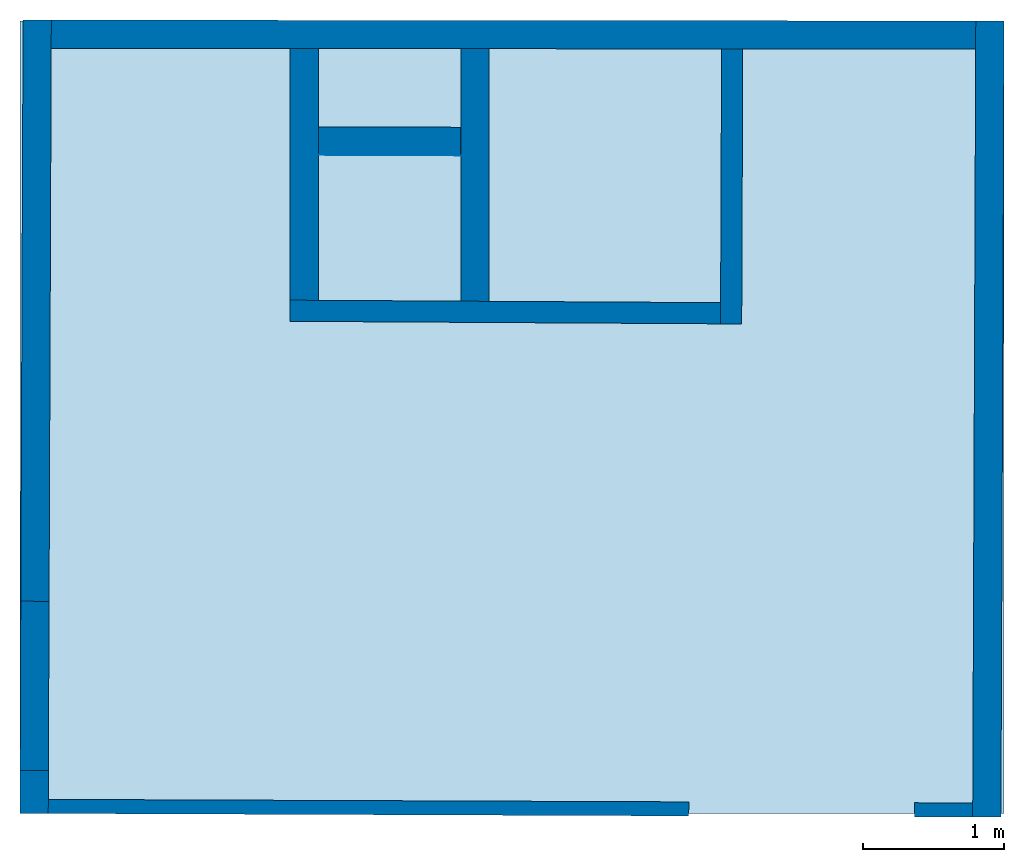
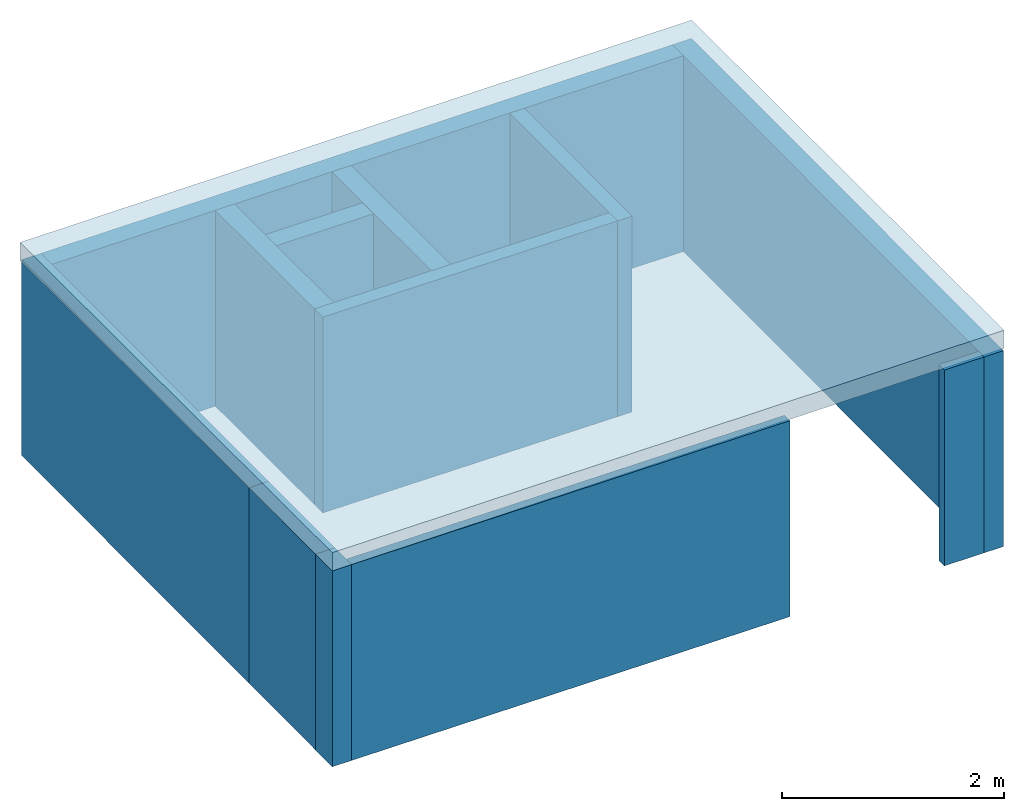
# One storey: 13 walls, 1 slab.
"""IFC2X3 building model written with IfcOpenShell, lengths in millimetres."""

from ifc_helpers import new_model, entity, si_unit, converted_unit, frame, frame_2d, origin, origin_with_axes, place, context, subcontext, project, spatial, polyline, rectangle, outline, extrude, material, layer, layer_set, layer_usage, element, save


model = new_model("IFC2X3")

# Units and contexts
model_context = context("Model", 3, precision=1e-05, world=origin())
body_context = subcontext(model_context, "Body", "Model", "MODEL_VIEW")
ifc_project = project(units=[si_unit("LENGTHUNIT", "METRE", prefix="MILLI"), converted_unit("PLANEANGLEUNIT", "DEGREE", entity("IfcPlaneAngleMeasure", 0.0174532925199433), si_unit("PLANEANGLEUNIT", "RADIAN"), dimensions=[0, 0, 0, 0, 0, 0, 0]), si_unit("AREAUNIT", "SQUARE_METRE"), si_unit("VOLUMEUNIT", "CUBIC_METRE")], contexts=[model_context])

# Building, storey
building_placement = place(None, origin())
building = spatial("IfcBuilding", under=ifc_project, at=building_placement, Name="Bâtiment", CompositionType="ELEMENT")
storey_placement = place(building_placement, frame((0.0, 0.0, 24250.0), z_axis=(0.0, 0.0, 1.0), x_axis=(1.0, 0.0, 0.0)))
storey = spatial("IfcBuildingStorey", under=building, at=storey_placement, Name="7. Etage supérieur", CompositionType="ELEMENT", Elevation=24250.0)

# Slab
ifc_material_1 = material(Name="<Unnamed Material>")
ifc_layer_1 = layer(ifc_material_1, 200.0)
ifc_layer_set_1 = layer_set([ifc_layer_1])
ifc_layer_usage_1 = layer_usage(ifc_layer_set_1, "AXIS3", "POSITIVE", 0.0)
slab_placement = place(storey_placement, frame((11820.96128719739, -12915.65015882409, 1950.0), z_axis=(0.0, 0.0, 1.0), x_axis=(1.0, 0.0, 0.0)))
element("IfcSlab", 1, at=slab_placement, inside=storey, material=ifc_layer_usage_1, Name="<Unnamed Element>", PredefinedType="FLOOR", context=body_context, shape_type="SweptSolid", body=[
    extrude(rectangle(XDim=6971.978793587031, YDim=5614.552198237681, at=frame_2d((-3485.989396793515, -2807.276099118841), x_axis=(-1.0, 0.0))), origin_with_axes(), (0.0, 0.0, 1.0), 200.0),
])

# Walls
ifc_material_2 = material(Name="<Unnamed Material>")
ifc_layer_2 = layer(ifc_material_2, 0.1094396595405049)
ifc_layer_set_2 = layer_set([ifc_layer_2])
ifc_layer_usage_2 = layer_usage(ifc_layer_set_2, "AXIS2", "POSITIVE", -200.0)
wall_1_placement = place(storey_placement, frame((6967.893524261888, -13865.21003219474, -200.0), z_axis=(0.0, 0.0, 1.0), x_axis=(0.9999924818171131, -0.003877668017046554, 0.0)))
element("IfcWallStandardCase", 2, at=wall_1_placement, inside=storey, material=ifc_layer_usage_2, Name="<Unnamed Element>", context=body_context, shape_type="SweptSolid", body=[
    extrude(outline(polyline([(0.0, 0.0), (999.0689072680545, 0.0), (999.0689072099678, 0.1094396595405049), (0.0, 0.0)])), origin_with_axes(), (0.0, 0.0, 1.0), 2150.0),
])
ifc_material_3 = material(Name="<Unnamed Material>")
ifc_layer_3 = layer(ifc_material_3, 149.9999999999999)
ifc_layer_set_3 = layer_set([ifc_layer_3])
ifc_layer_usage_3 = layer_usage(ifc_layer_set_3, "AXIS2", "POSITIVE", 0.0)
wall_2_placement = place(storey_placement, frame((9819.893887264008, -13113.6869295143, -200.0), z_axis=(0.0, 0.0, 1.0), x_axis=(-0.003877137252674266, -0.9999924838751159, 0.0)))
element("IfcWallStandardCase", 3, at=wall_2_placement, inside=storey, material=ifc_layer_usage_3, Name="<Unnamed Element>", context=body_context, shape_type="SweptSolid", body=[
    extrude(outline(polyline([(0.0, 0.0), (1949.020406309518, 8.881784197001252e-16), (1949.020406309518, 149.9999999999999), (-0.4344024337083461, 150.0000000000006), (0.0, 0.0)])), origin_with_axes(), (0.0, 0.0, 1.0), 2150.0),
])
ifc_material_4 = material(Name="<Unnamed Material>")
ifc_layer_4 = layer(ifc_material_4, 150.0000000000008)
ifc_layer_set_4 = layer_set([ifc_layer_4])
ifc_layer_usage_4 = layer_usage(ifc_layer_set_4, "AXIS2", "POSITIVE", 0.0)
wall_3_placement = place(storey_placement, frame((9812.92326485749, -14911.55209656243, -200.0), z_axis=(0.0, 0.0, 1.0), x_axis=(-0.9999831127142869, 0.005811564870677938, 0.0)))
element("IfcWallStandardCase", 4, at=wall_3_placement, inside=storey, material=ifc_layer_usage_4, Name="<Unnamed Element>", context=body_context, shape_type="SweptSolid", body=[
    extrude(outline(polyline([(0.0, 0.0), (3049.945626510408, 0.0), (3049.073877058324, 150.0000000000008), (-0.2901679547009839, 149.9999999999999), (0.0, 0.0)])), origin_with_axes(), (0.0, 0.0, 1.0), 2150.0),
])
ifc_material_5 = material(Name="<Unnamed Material>")
ifc_layer_5 = layer(ifc_material_5, 200.0000000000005)
ifc_layer_set_5 = layer_set([ifc_layer_5])
ifc_layer_usage_5 = layer_usage(ifc_layer_set_5, "AXIS2", "POSITIVE", -200.0)
wall_4_placement = place(storey_placement, frame((11620.96054477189, -12915.45393026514, -200.0), z_axis=(0.0, 0.0, 1.0), x_axis=(-0.00387713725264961, -0.9999924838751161, 0.0)))
element("IfcWallStandardCase", 5, at=wall_4_placement, inside=storey, material=ifc_layer_usage_5, Name="<Unnamed Element>", context=body_context, shape_type="SweptSolid", body=[
    extrude(outline(polyline([(0.0, 0.0), (5640.962105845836, 0.0), (5640.963670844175, 200.0000000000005), (-0.5792032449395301, 200.0000000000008), (0.0, 0.0)])), origin_with_axes(), (0.0, 0.0, 1.0), 2150.0),
])
ifc_material_6 = material(Name="<Unnamed Material>")
ifc_layer_6 = layer(ifc_material_6, 200.0000000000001)
ifc_layer_set_6 = layer_set([ifc_layer_6])
ifc_layer_usage_6 = layer_usage(ifc_layer_set_6, "AXIS2", "POSITIVE", -200.0)
wall_5_placement = place(storey_placement, frame((4870.776407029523, -12908.83106031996, -200.0), z_axis=(0.0, 0.0, 1.0), x_axis=(-0.00387713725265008, -0.9999924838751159, 0.0)))
element("IfcWallStandardCase", 6, at=wall_5_placement, inside=storey, material=ifc_layer_usage_6, Name="<Unnamed Element>", context=body_context, shape_type="SweptSolid", body=[
    extrude(outline(polyline([(0.0, 0.0), (4118.033887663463, 0.0), (4118.033887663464, 200.0000000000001), (-0.5792032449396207, 199.9999999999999), (0.0, 0.0)])), origin_with_axes(), (0.0, 0.0, 1.0), 2150.0),
])
ifc_material_7 = material(Name="<Unnamed Material>")
ifc_layer_7 = layer(ifc_material_7, 199.9999999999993)
ifc_layer_set_7 = layer_set([ifc_layer_7])
ifc_layer_usage_7 = layer_usage(ifc_layer_set_7, "AXIS2", "POSITIVE", -200.0)
wall_6_placement = place(storey_placement, frame((4850.156996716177, -18226.99598276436, -200.0), z_axis=(0.0, 0.0, 1.0), x_axis=(-0.003873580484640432, -0.999992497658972, 0.0)))
element("IfcWallStandardCase", 7, at=wall_6_placement, inside=storey, material=ifc_layer_usage_7, Name="<Unnamed Element>", context=body_context, shape_type="SweptSolid", body=[
    extrude(outline(polyline([(0.0, 0.0), (303.208649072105, 0.0), (303.2093604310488, 199.9999999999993), (-1.519118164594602e-12, 200.0000000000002), (0.0, 0.0)])), origin_with_axes(), (0.0, 0.0, 1.0), 2150.0),
])
ifc_material_8 = material(Name="<Unnamed Material>")
ifc_layer_8 = layer(ifc_material_8, 99.99999999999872)
ifc_layer_set_8 = layer_set([ifc_layer_8])
ifc_layer_usage_8 = layer_usage(ifc_layer_set_8, "AXIS2", "POSITIVE", -100.0)
wall_7_placement = place(storey_placement, frame((5048.980990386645, -18530.97778451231, -200.0), z_axis=(0.0, 0.0, 1.0), x_axis=(0.9999924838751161, -0.003877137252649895, 0.0)))
element("IfcWallStandardCase", 8, at=wall_7_placement, inside=storey, material=ifc_layer_usage_8, Name="<Unnamed Element>", context=body_context, shape_type="SweptSolid", body=[
    extrude(outline(polyline([(0.0, 0.0), (4538.195605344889, 3.552713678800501e-15), (4538.195605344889, 99.99999999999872), (-0.0003556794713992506, 100.0000000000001), (0.0, 0.0)])), origin_with_axes(), (0.0, 0.0, 1.0), 2150.0),
])
ifc_material_9 = material(Name="<Unnamed Material>")
ifc_layer_9 = layer(ifc_material_9, 100.0000000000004)
ifc_layer_set_9 = layer_set([ifc_layer_9])
ifc_layer_usage_9 = layer_usage(ifc_layer_set_9, "AXIS2", "POSITIVE", -100.0)
wall_8_placement = place(storey_placement, frame((11187.38509966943, -18554.77416882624, -200.0), z_axis=(0.0, 0.0, 1.0), x_axis=(0.9999924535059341, -0.003884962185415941, 0.0)))
element("IfcWallStandardCase", 9, at=wall_8_placement, inside=storey, material=ifc_layer_usage_9, Name="<Unnamed Element>", context=body_context, shape_type="SweptSolid", body=[
    extrude(outline(polyline([(0.0, 0.0), (411.7077677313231, -2.220446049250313e-16), (411.7069852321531, 100.0000000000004), (4.599098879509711e-13, 100.0000000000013), (0.0, 0.0)])), origin_with_axes(), (0.0, 0.0, 1.0), 2150.0),
])
ifc_material_10 = material(Name="<Unnamed Material>")
ifc_layer_10 = layer(ifc_material_10, 200.0000000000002)
ifc_layer_set_10 = layer_set([ifc_layer_10])
ifc_layer_usage_10 = layer_usage(ifc_layer_set_10, "AXIS2", "POSITIVE", 0.0)
wall_9_placement = place(storey_placement, frame((5050.155496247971, -18227.77069886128, -200.0), z_axis=(0.0, 0.0, 1.0), x_axis=(0.003877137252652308, 0.9999924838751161, 0.0)))
element("IfcWallStandardCase", 10, at=wall_9_placement, inside=storey, material=ifc_layer_usage_10, Name="<Unnamed Element>", context=body_context, shape_type="SweptSolid", body=[
    extrude(rectangle(XDim=1200.170295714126, YDim=200.0000000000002, at=frame_2d((600.085147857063, 100.0000000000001), x_axis=(1.0, 0.0))), origin_with_axes(), (0.0, 0.0, 1.0), 2150.0),
])
ifc_material_11 = material(Name="<Unnamed Material>")
ifc_layer_11 = layer(ifc_material_11, 199.9999999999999)
ifc_layer_set_11 = layer_set([ifc_layer_11])
ifc_layer_usage_11 = layer_usage(ifc_layer_set_11, "AXIS2", "POSITIVE", -200.0)
wall_10_placement = place(storey_placement, frame((11620.96054477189, -12915.45393026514, -200.0), z_axis=(0.0, 0.0, 1.0), x_axis=(-0.9999995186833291, 0.0009811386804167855, 0.0)))
element("IfcWallStandardCase", 11, at=wall_10_placement, inside=storey, material=ifc_layer_usage_11, Name="<Unnamed Element>", context=body_context, shape_type="SweptSolid", body=[
    extrude(outline(polyline([(0.0, 0.0), (6550.186548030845, 0.0), (6550.765751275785, 199.9999999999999), (0.5792032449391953, 199.9999999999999), (0.0, 0.0)])), origin_with_axes(), (0.0, 0.0, 1.0), 2150.0),
])
ifc_material_12 = material(Name="<Unnamed Material>")
ifc_layer_12 = layer(ifc_material_12, 200.0)
ifc_layer_set_12 = layer_set([ifc_layer_12])
ifc_layer_usage_12 = layer_usage(ifc_layer_set_12, "AXIS2", "POSITIVE", 0.0)
wall_11_placement = place(storey_placement, frame((6963.029143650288, -14894.9894723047, -200.0), z_axis=(0.0, 0.0, 1.0), x_axis=(0.0, 0.9999999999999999, 0.0)))
element("IfcWallStandardCase", 12, at=wall_11_placement, inside=storey, material=ifc_layer_usage_12, Name="<Unnamed Element>", context=body_context, shape_type="SweptSolid", body=[
    extrude(outline(polyline([(0.0, 0.0), (1784.105524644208, 0.0), (1784.301752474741, 200.0), (1.162332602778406, 200.0), (0.0, 0.0)])), origin_with_axes(), (0.0, 0.0, 1.0), 2150.0),
])
ifc_material_13 = material(Name="<Unnamed Material>")
ifc_layer_13 = layer(ifc_material_13, 200.0)
ifc_layer_set_13 = layer_set([ifc_layer_13])
ifc_layer_usage_13 = layer_usage(ifc_layer_set_13, "AXIS2", "POSITIVE", 0.0)
wall_12_placement = place(storey_placement, frame((6963.029143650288, -13865.19170245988, -200.0), z_axis=(0.0, 0.0, 1.0), x_axis=(0.9999929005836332, -0.003768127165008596, 0.0)))
element("IfcWallStandardCase", 13, at=wall_12_placement, inside=storey, material=ifc_layer_usage_13, Name="<Unnamed Element>", context=body_context, shape_type="SweptSolid", body=[
    extrude(outline(polyline([(0.0, 0.0), (1006.241240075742, 0.0), (1006.497367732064, 200.0), (-0.7536307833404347, 199.9999999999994), (0.0, 0.0)])), origin_with_axes(), (0.0, 0.0, 1.0), 2150.0),
])
ifc_material_14 = material(Name="<Unnamed Material>")
ifc_layer_14 = layer(ifc_material_14, 200.0)
ifc_layer_set_14 = layer_set([ifc_layer_14])
ifc_layer_usage_14 = layer_usage(ifc_layer_set_14, "AXIS2", "POSITIVE", 0.0)
wall_13_placement = place(storey_placement, frame((7973.085741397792, -13111.87495373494, -200.0), z_axis=(0.0, 0.0, 1.0), x_axis=(0.0, -1.0, 0.0)))
element("IfcWallStandardCase", 14, at=wall_13_placement, inside=storey, material=ifc_layer_usage_14, Name="<Unnamed Element>", context=body_context, shape_type="SweptSolid", body=[
    extrude(outline(polyline([(0.0, 0.0), (1788.984627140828, 0.0), (1790.146959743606, 200.0), (0.1962278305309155, 200.0), (0.0, 0.0)])), origin_with_axes(), (0.0, 0.0, 1.0), 2150.0),
])

save(model, "model.ifc")
